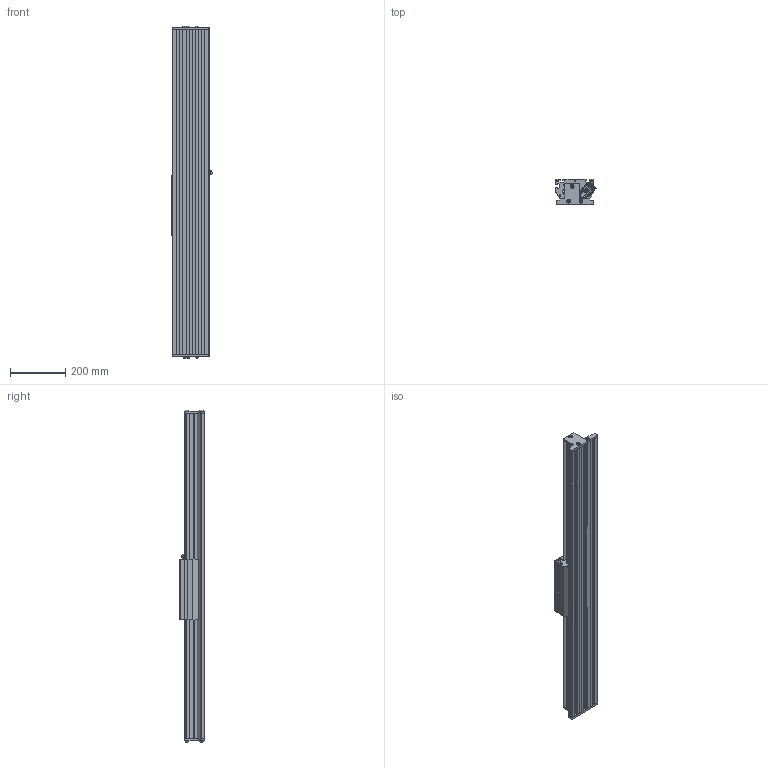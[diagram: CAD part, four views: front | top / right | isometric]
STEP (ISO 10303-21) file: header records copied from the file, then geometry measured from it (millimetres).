
FILE_DESCRIPTION (( 'STEP AP214' ), '1' );
FILE_NAME ('SINADRIVES Linear motor stage MLL20200XS-XX-1-0-ST-00-01188.STEP', '2015-07-06T09:05:23', ( 'Tecnico' ), ( '' ), 'SwSTEP 2.0', 'SolidWorks 2009', '' );
FILE_SCHEMA (( 'AUTOMOTIVE_DESIGN' ));
Length unit declared in the file: millimetre
Products named in the file (7): SINADRIVES PROFILE MLL2XXXX-1172; SINADRIVES CARRIAGE MLL20200XS-1; CARRIAGE MLL20200; Connector power+signal Y-tec 45; SINADRIVES ENDBLOCK MLL2; SINADRIVES ENDBLOCK MLL2-2; SINADRIVES Linear motor stage MLL20200XS-XX-1-0-ST-00-01188
Assembly tree (6 placements, depth 3):
  SINADRIVES Linear motor stage MLL20200XS-XX-1-0-ST-00-01188
    SINADRIVES ENDBLOCK MLL2-2
    SINADRIVES CARRIAGE MLL20200XS-1
      CARRIAGE MLL20200
      Connector power+signal Y-tec 45
    SINADRIVES PROFILE MLL2XXXX-1172
    SINADRIVES ENDBLOCK MLL2
Bounding box: 144.43 x 91 x 1196.8 mm (x, y, z)
Volume: 5923878.9 mm3; surface area: 1039253.9 mm2
Topology: 2 solids, 42 shells, 950 faces, 2640 edges, 1730 vertices
Faces by surface type: plane 445, cylinder 302, bspline 79, cone 70, torus 42, sphere 12
Entity records: 40587 total; most frequent: CARTESIAN_POINT 8656, ORIENTED_EDGE 5024, DIRECTION 4947, EDGE_CURVE 2622, AXIS2_PLACEMENT_3D 1781, VERTEX_POINT 1730, LINE 1385, VECTOR 1385
